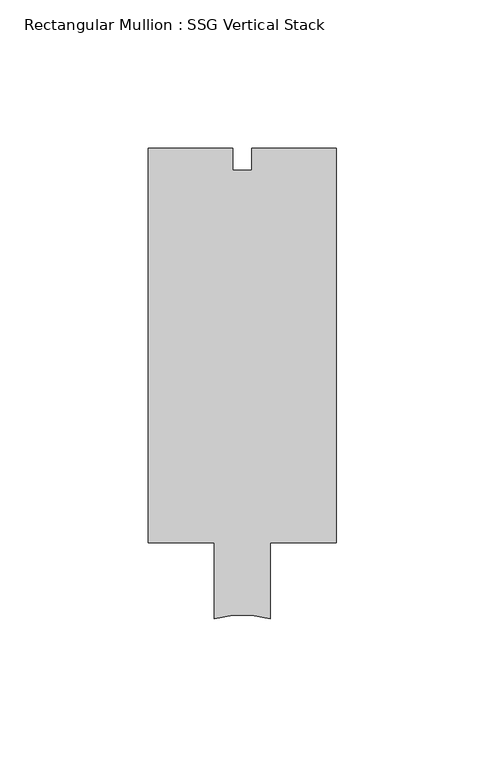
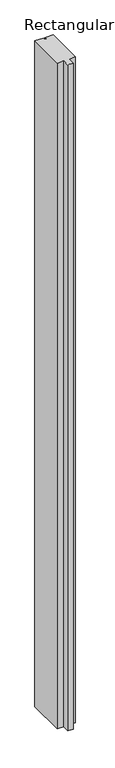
"""IFC4 building model written with IfcOpenShell, lengths in millimetres: member geometry, Rectangular Mullion : SSG Vertical Stack."""

from ifc_helpers import new_model, si_unit, point, frame, frame_2d, origin, place, context, project, spatial, polyline, circle_curve, trimmed, segment, composite_curve, outline, extrude, source, transform, mapped, element, save


def rectangular_mullion_ssg_vertical_stack_c531deef(model_context):
    return source(origin(), model_context, "Body", "SweptSolid", [
        extrude(outline(composite_curve([segment(polyline([(-3.175, 114.3), (-3.175, 106.9085472), (3.175, 106.9085472), (3.175, 114.3), (31.7705663, 114.3), (31.7705663, -18.933673), (9.534694, -18.933673), (9.534694, -44.4572901)]), True, "CONTINUOUS"), segment(trimmed(circle_curve(frame_2d((-2e-07, -81.9595205)), 38.6953185), [point((9.534694, -44.4572901))], [point((-9.5153094, -44.4523669))], True, "CARTESIAN"), True, "CONTINUOUS"), segment(polyline([(-9.5153094, -44.4523669), (-9.5153094, -18.9488461), (-31.75, -18.9488461), (-31.75, 114.3), (-3.175, 114.3)]), True, "CONTINUOUS")], self_intersect=False)), frame((0.0, 0.0, -2438.4), z_axis=(0.0, 0.0, 1.0), x_axis=(1.0, 0.0, 0.0)), (0.0, 0.0, 1.0), 2438.4),
    ])


if __name__ == "__main__":
    model = new_model("IFC4")
    model_context = context("Model", 3, world=origin())
    ifc_project = project(units=[si_unit("LENGTHUNIT", "METRE", prefix="MILLI")], contexts=[model_context])
    site = spatial("IfcSite", under=ifc_project)
    building = spatial("IfcBuilding", under=site)
    placement = place(None, origin())
    rectangular_mullion_ssg_vertical_stack_shape = rectangular_mullion_ssg_vertical_stack_c531deef(model_context)
    element("IfcMember", 1, ObjectType="Rectangular Mullion : SSG Vertical Stack", at=placement, inside=building, context=model_context, shape_type="MappedRepresentation", body=[
        mapped(rectangular_mullion_ssg_vertical_stack_shape, transform((0.0, 0.0, 0.0), x_axis=(1.0, 0.0, 0.0), y_axis=(0.0, 1.0, 0.0), z_axis=(0.0, 0.0, 1.0))),
    ])
    save(model, "model.ifc")
